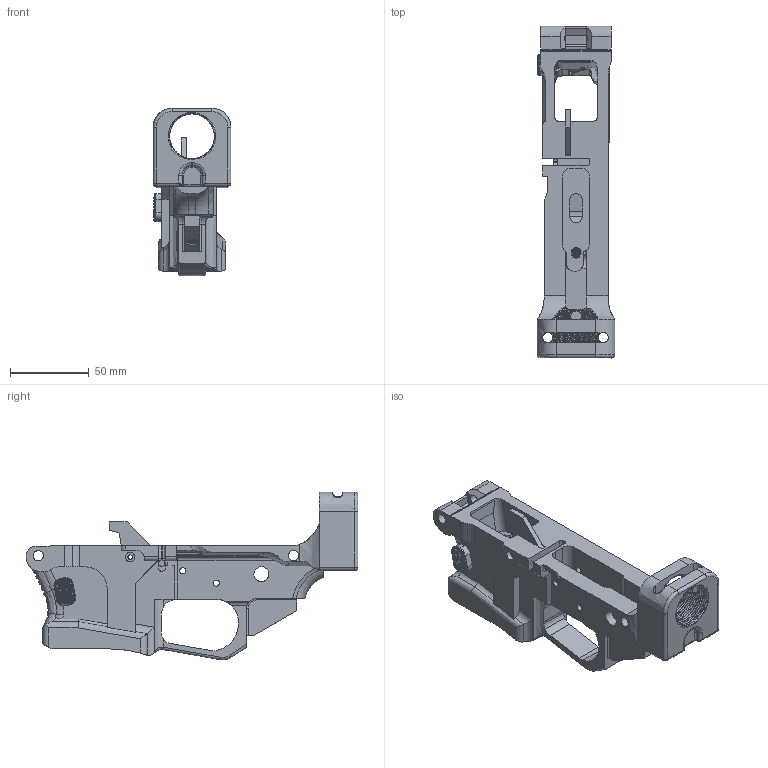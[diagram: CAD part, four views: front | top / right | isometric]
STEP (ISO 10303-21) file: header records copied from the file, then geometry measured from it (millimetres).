
FILE_DESCRIPTION(/* description */ (''),/* implementation_level */ '2;1');
FILE_NAME(/* name */ 'PCC 1.0/STEP/Lowers/AR-45 - Glock Mag - Final.step',/* time_stamp */ '2022-04-06T16:38:37-04:00',/* author */ (''),/* organization */ (''),/* preprocessor_version */ 'ST-DEVELOPER v18.1',/* originating_system */ 'Autodesk Translation Framework v10.14.0.1471',/* authorisation */ '');
FILE_SCHEMA (('AUTOMOTIVE_DESIGN { 1 0 10303 214 3 1 1 }'));
Products named in the file (5): AR-45 - Glock Mag - Final; Mag Catch Button (1); Mag Catch Long (2); Frame (4); Ejector
Assembly tree (4 placements, depth 2):
  AR-45 - Glock Mag - Final
    Mag Catch Button (1)
    Mag Catch Long (2)
    Frame (4)
    Ejector
Bounding box: 49.27 x 210.49 x 106.26 mm (x, y, z)
Volume: 218832.7 mm3; surface area: 71766.8 mm2
Topology: 4 solids, 4 shells, 818 faces, 2286 edges, 1461 vertices
Faces by surface type: cylinder 302, plane 266, bspline 224, torus 16, cone 6, sphere 4
Full cylindrical faces by diameter (mm): 3 x6, 3.175 x1, 3.962 x4, 5.172 x21, 6 x3, 6.35 x20, 6.5 x6, 6.75 x1, 9.525 x2, 28.47 x9, 30.043 x9
Entity records: 49929 total; most frequent: CARTESIAN_POINT 30834, ORIENTED_EDGE 4538, DIRECTION 3087, EDGE_CURVE 2269, VERTEX_POINT 1457, AXIS2_PLACEMENT_3D 1083, LINE 921, VECTOR 921
